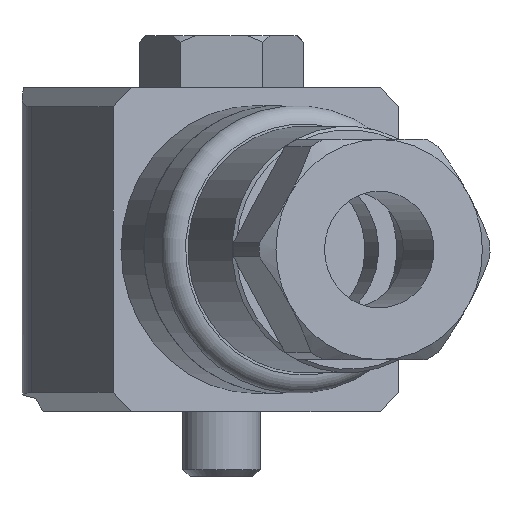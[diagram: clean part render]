
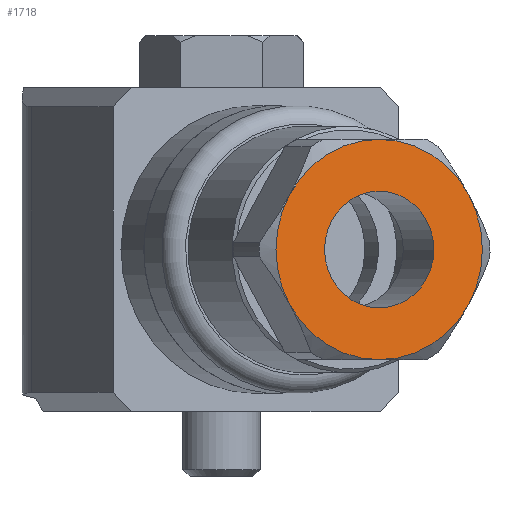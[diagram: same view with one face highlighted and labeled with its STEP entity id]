
A CAD part, front view. The second image highlights one B-rep face of the part: STEP entity #1718.
In plain terms, the highlighted planar face has unit normal (0.349, -0.937, 0).
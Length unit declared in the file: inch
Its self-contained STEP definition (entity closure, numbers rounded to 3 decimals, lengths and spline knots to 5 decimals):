
#95=FACE_BOUND('',#500,.T.);
#382=FACE_OUTER_BOUND('',#499,.T.);
#499=EDGE_LOOP('',(#1466,#1467,#1468,#1469,#1470,#1471));
#500=EDGE_LOOP('',(#1472,#1473));
#586=CIRCLE('',#1907,0.33465);
#588=CIRCLE('',#1910,0.33465);
#591=CIRCLE('',#1914,0.33465);
#593=CIRCLE('',#1917,0.33465);
#595=CIRCLE('',#1920,0.33465);
#597=CIRCLE('',#1923,0.33465);
#614=CIRCLE('',#1960,0.17717);
#615=CIRCLE('',#1961,0.17717);
#740=VERTEX_POINT('',#2900);
#741=VERTEX_POINT('',#2904);
#744=VERTEX_POINT('',#2913);
#748=VERTEX_POINT('',#2930);
#751=VERTEX_POINT('',#2942);
#754=VERTEX_POINT('',#2954);
#779=VERTEX_POINT('',#3049);
#780=VERTEX_POINT('',#3050);
#951=EDGE_CURVE('',#740,#741,#586,.T.);
#955=EDGE_CURVE('',#744,#740,#588,.T.);
#961=EDGE_CURVE('',#748,#744,#591,.T.);
#965=EDGE_CURVE('',#751,#748,#593,.T.);
#969=EDGE_CURVE('',#754,#751,#595,.T.);
#973=EDGE_CURVE('',#741,#754,#597,.T.);
#1011=EDGE_CURVE('',#779,#780,#614,.T.);
#1012=EDGE_CURVE('',#780,#779,#615,.T.);
#1466=ORIENTED_EDGE('',*,*,#951,.F.);
#1467=ORIENTED_EDGE('',*,*,#955,.F.);
#1468=ORIENTED_EDGE('',*,*,#961,.F.);
#1469=ORIENTED_EDGE('',*,*,#965,.F.);
#1470=ORIENTED_EDGE('',*,*,#969,.F.);
#1471=ORIENTED_EDGE('',*,*,#973,.F.);
#1472=ORIENTED_EDGE('',*,*,#1011,.T.);
#1473=ORIENTED_EDGE('',*,*,#1012,.T.);
#1526=PLANE('',#1959);
#1718=ADVANCED_FACE('',(#382,#95),#1526,.T.);
#1907=AXIS2_PLACEMENT_3D('',#2905,#2351,#2352);
#1910=AXIS2_PLACEMENT_3D('',#2917,#2357,#2358);
#1914=AXIS2_PLACEMENT_3D('',#2934,#2365,#2366);
#1917=AXIS2_PLACEMENT_3D('',#2946,#2371,#2372);
#1920=AXIS2_PLACEMENT_3D('',#2958,#2377,#2378);
#1923=AXIS2_PLACEMENT_3D('',#2969,#2383,#2384);
#1959=AXIS2_PLACEMENT_3D('',#3048,#2476,#2477);
#1960=AXIS2_PLACEMENT_3D('',#3051,#2478,#2479);
#1961=AXIS2_PLACEMENT_3D('',#3052,#2480,#2481);
#2351=DIRECTION('center_axis',(-0.349,0.937,0.));
#2352=DIRECTION('ref_axis',(0.937,0.349,0.));
#2357=DIRECTION('center_axis',(-0.349,0.937,0.));
#2358=DIRECTION('ref_axis',(0.937,0.349,0.));
#2365=DIRECTION('center_axis',(-0.349,0.937,0.));
#2366=DIRECTION('ref_axis',(0.937,0.349,0.));
#2371=DIRECTION('center_axis',(-0.349,0.937,0.));
#2372=DIRECTION('ref_axis',(0.937,0.349,0.));
#2377=DIRECTION('center_axis',(-0.349,0.937,0.));
#2378=DIRECTION('ref_axis',(0.937,0.349,0.));
#2383=DIRECTION('center_axis',(-0.349,0.937,0.));
#2384=DIRECTION('ref_axis',(0.937,0.349,0.));
#2476=DIRECTION('center_axis',(0.349,-0.937,0.));
#2477=DIRECTION('ref_axis',(0.937,0.349,0.));
#2478=DIRECTION('center_axis',(-0.349,0.937,0.));
#2479=DIRECTION('ref_axis',(-0.937,-0.349,0.));
#2480=DIRECTION('center_axis',(-0.349,0.937,0.));
#2481=DIRECTION('ref_axis',(-0.937,-0.349,0.));
#2900=CARTESIAN_POINT('',(-0.79965,-2.64225,-0.02111));
#2904=CARTESIAN_POINT('',(-1.07121,-2.74351,0.1462));
#2905=CARTESIAN_POINT('Origin',(-0.79966,-2.64226,0.31354));
#2913=CARTESIAN_POINT('',(-0.52811,-2.54101,0.14623));
#2917=CARTESIAN_POINT('Origin',(-0.79966,-2.64226,0.31354));
#2930=CARTESIAN_POINT('',(-0.52812,-2.54101,0.48087));
#2934=CARTESIAN_POINT('Origin',(-0.79966,-2.64226,0.31354));
#2942=CARTESIAN_POINT('',(-0.79967,-2.64226,0.64818));
#2946=CARTESIAN_POINT('Origin',(-0.79966,-2.64226,0.31354));
#2954=CARTESIAN_POINT('',(-1.07122,-2.74351,0.48085));
#2958=CARTESIAN_POINT('Origin',(-0.79966,-2.64226,0.31354));
#2969=CARTESIAN_POINT('Origin',(-0.79966,-2.64226,0.31354));
#3048=CARTESIAN_POINT('Origin',(-0.59677,-2.56661,0.31355));
#3049=CARTESIAN_POINT('',(-0.63366,-2.58036,0.31355));
#3050=CARTESIAN_POINT('',(-0.96566,-2.70415,0.31353));
#3051=CARTESIAN_POINT('Origin',(-0.79966,-2.64226,0.31354));
#3052=CARTESIAN_POINT('Origin',(-0.79966,-2.64226,0.31354));
